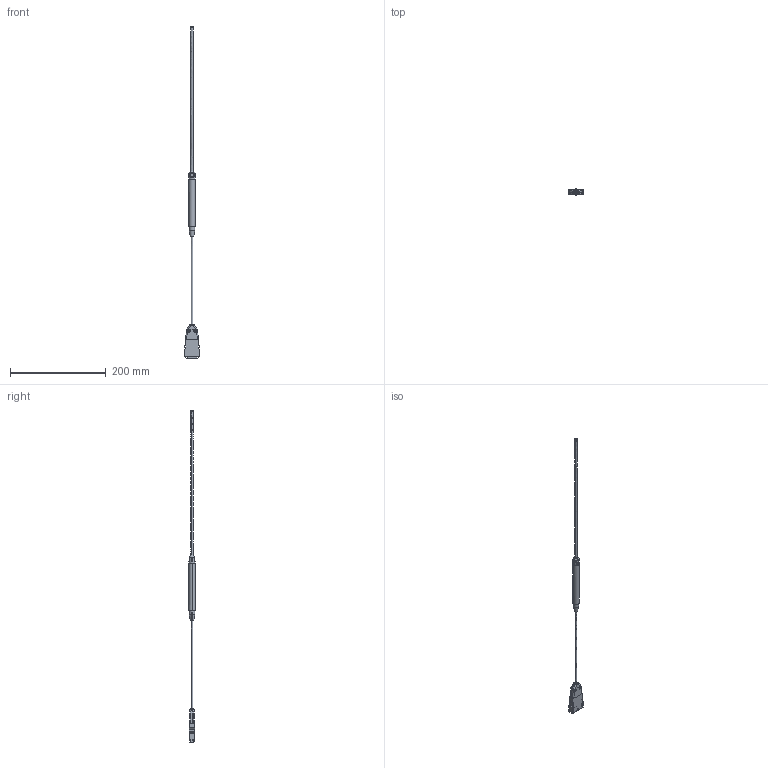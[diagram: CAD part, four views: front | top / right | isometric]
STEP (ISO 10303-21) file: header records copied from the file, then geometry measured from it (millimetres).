
FILE_DESCRIPTION (( 'STEP AP203' ), '1' );
FILE_NAME ('FP-2X-250-AC_defeature4_defeature.STEP', '2021-02-19T21:27:15', ( '' ), ( '' ), 'SwSTEP 2.0', 'SolidWorks 2020', '' );
FILE_SCHEMA (( 'CONFIG_CONTROL_DESIGN' ));
Length unit declared in the file: millimetre
Products named in the file (1): FP-2X-250-AC_defeature4_defeature
Bounding box: 33.27 x 13 x 694.64 mm (x, y, z)
Volume: 42871.5 mm3; surface area: 19933 mm2
Topology: 1 solids, 1 shells, 585 faces, 1563 edges, 986 vertices
Faces by surface type: plane 331, bspline 254
Entity records: 26495 total; most frequent: CARTESIAN_POINT 15150, ORIENTED_EDGE 3126, EDGE_CURVE 1563, DIRECTION 1212, VERTEX_POINT 986, B_SPLINE_CURVE_WITH_KNOTS 977, EDGE_LOOP 613, ADVANCED_FACE 585
